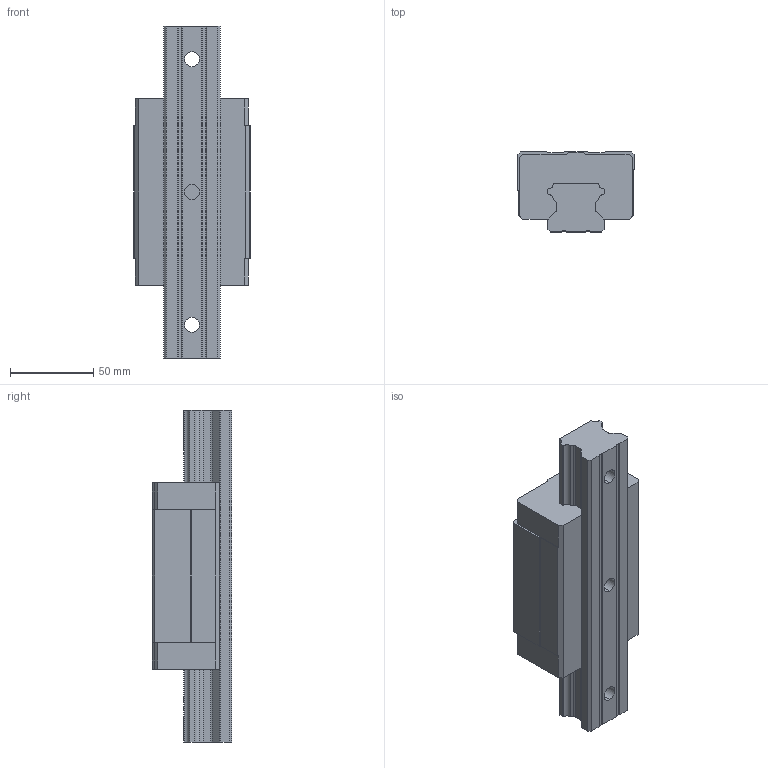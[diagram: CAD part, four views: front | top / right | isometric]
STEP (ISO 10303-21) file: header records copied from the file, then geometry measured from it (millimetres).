
FILE_DESCRIPTION (( 'STEP AP214' ), '1' );
FILE_NAME ('2.1035 Lineaarikelkka HGL35CA.STEP', '2025-09-19T06:35:03', ( '' ), ( '' ), 'SwSTEP 2.0', 'SolidWorks 2025', '' );
FILE_SCHEMA (( 'AUTOMOTIVE_DESIGN' ));
Length unit declared in the file: millimetre
Products named in the file (1): 2.1035 Lineaarikelkka HGL35CA
Bounding box: 70 x 48 x 200 mm (x, y, z)
Volume: 401090.6 mm3; surface area: 65631.4 mm2
Topology: 2 solids, 2 shells, 135 faces, 372 edges, 248 vertices
Faces by surface type: plane 97, cylinder 38
Entity records: 5811 total; most frequent: CARTESIAN_POINT 756, ORIENTED_EDGE 744, DIRECTION 720, EDGE_CURVE 372, VECTOR 296, LINE 296, VERTEX_POINT 248, AXIS2_PLACEMENT_3D 212
